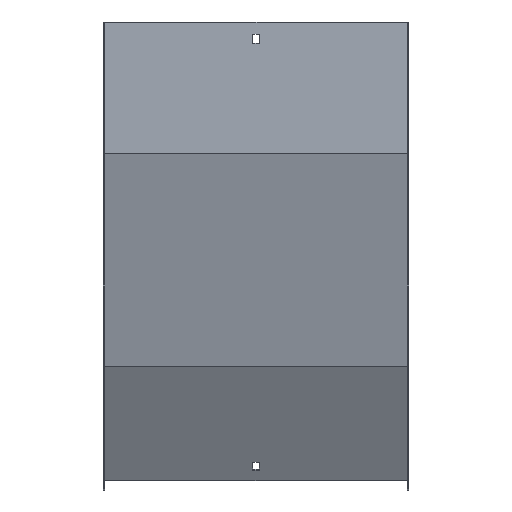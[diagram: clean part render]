
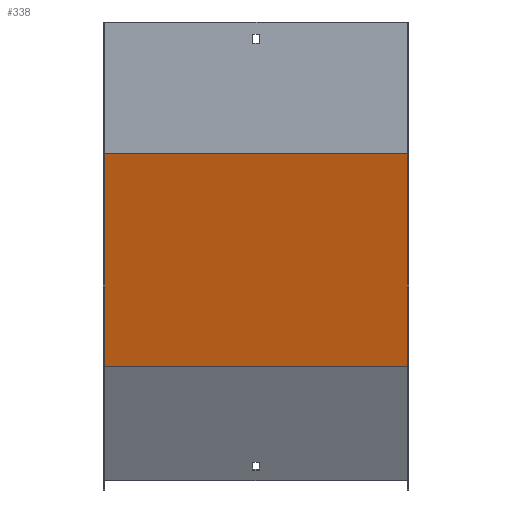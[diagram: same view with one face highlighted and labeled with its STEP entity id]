
A CAD part, front view. The second image highlights one B-rep face of the part: STEP entity #338.
In plain terms, the highlighted planar face has unit normal (0, -0.966, -0.259).
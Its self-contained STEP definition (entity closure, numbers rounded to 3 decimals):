
#21 = CARTESIAN_POINT ( 'NONE',  ( 151.5, 55.284, -342.117 ) ) ;
#29 = VERTEX_POINT ( 'NONE', #437 ) ;
#33 = PLANE ( 'NONE',  #54 ) ;
#40 = VECTOR ( 'NONE', #534, 1000. ) ;
#42 = LINE ( 'NONE', #571, #652 ) ;
#54 = AXIS2_PLACEMENT_3D ( 'NONE', #283, #753, #160 ) ;
#58 = LINE ( 'NONE', #848, #262 ) ;
#86 = EDGE_CURVE ( 'NONE', #206, #606, #58, .T. ) ;
#88 = LINE ( 'NONE', #597, #291 ) ;
#94 = FACE_OUTER_BOUND ( 'NONE', #826, .T. ) ;
#110 = ORIENTED_EDGE ( 'NONE', *, *, #185, .T. ) ;
#157 = CARTESIAN_POINT ( 'NONE',  ( -150., 55.284, -342.117 ) ) ;
#160 = DIRECTION ( 'NONE',  ( 0., -0.259, 0.966 ) ) ;
#185 = EDGE_CURVE ( 'NONE', #606, #594, #42, .T. ) ;
#200 = ORIENTED_EDGE ( 'NONE', *, *, #86, .T. ) ;
#203 = LINE ( 'NONE', #21, #40 ) ;
#206 = VERTEX_POINT ( 'NONE', #827 ) ;
#236 = EDGE_CURVE ( 'NONE', #206, #29, #88, .T. ) ;
#246 = EDGE_CURVE ( 'NONE', #29, #594, #203, .T. ) ;
#247 = DIRECTION ( 'NONE',  ( -1., 0., 0. ) ) ;
#260 = DIRECTION ( 'NONE',  ( 0., 0.259, -0.966 ) ) ;
#262 = VECTOR ( 'NONE', #247, 1000. ) ;
#283 = CARTESIAN_POINT ( 'NONE',  ( 151.5, -1.449, -130.388 ) ) ;
#291 = VECTOR ( 'NONE', #260, 1000. ) ;
#311 = DIRECTION ( 'NONE',  ( 0., 0.259, -0.966 ) ) ;
#338 = ADVANCED_FACE ( 'NONE', ( #94 ), #33, .F. ) ;
#437 = CARTESIAN_POINT ( 'NONE',  ( 150., 55.284, -342.117 ) ) ;
#534 = DIRECTION ( 'NONE',  ( -1., 0., 0. ) ) ;
#552 = CARTESIAN_POINT ( 'NONE',  ( -150., -1.5, -130.197 ) ) ;
#571 = CARTESIAN_POINT ( 'NONE',  ( -150., -33.949, -9.097 ) ) ;
#594 = VERTEX_POINT ( 'NONE', #157 ) ;
#597 = CARTESIAN_POINT ( 'NONE',  ( 150., -33.949, -9.097 ) ) ;
#606 = VERTEX_POINT ( 'NONE', #552 ) ;
#652 = VECTOR ( 'NONE', #311, 1000. ) ;
#723 = ORIENTED_EDGE ( 'NONE', *, *, #246, .F. ) ;
#753 = DIRECTION ( 'NONE',  ( 0., 0.966, 0.259 ) ) ;
#771 = ORIENTED_EDGE ( 'NONE', *, *, #236, .F. ) ;
#826 = EDGE_LOOP ( 'NONE', ( #110, #723, #771, #200 ) ) ;
#827 = CARTESIAN_POINT ( 'NONE',  ( 150., -1.5, -130.197 ) ) ;
#848 = CARTESIAN_POINT ( 'NONE',  ( 151.5, -1.5, -130.197 ) ) ;
